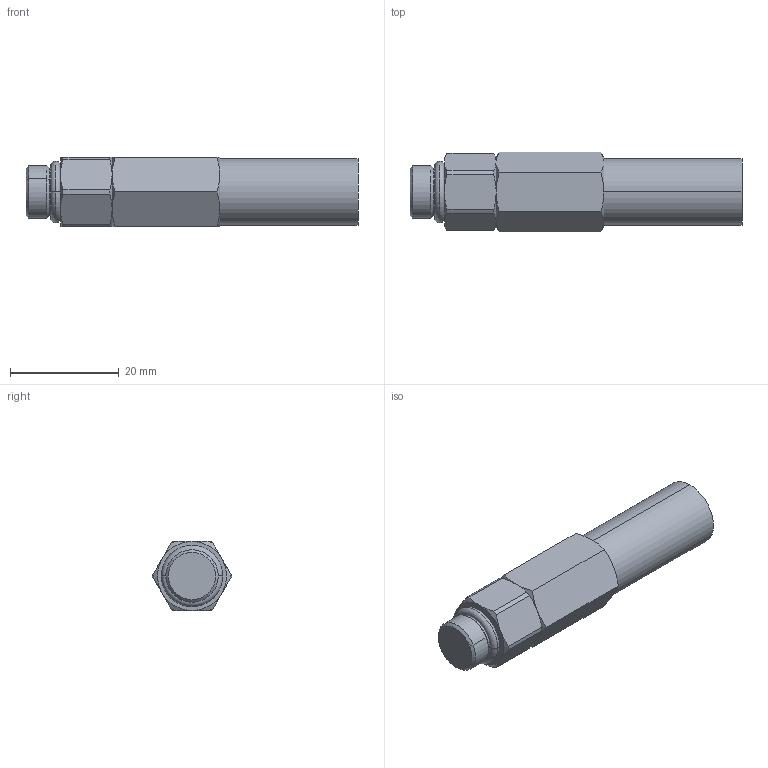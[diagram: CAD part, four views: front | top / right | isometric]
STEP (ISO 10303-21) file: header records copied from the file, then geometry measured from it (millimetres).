
FILE_DESCRIPTION((''),'2;1');
FILE_NAME('563261-EN-F_PRT','2019-12-31T21:54:57',('qusrh3'),(''),'CREO PARAMETRIC BY PTC INC, 2019030','CREO PARAMETRIC BY PTC INC, 2019030','');
FILE_SCHEMA(('CONFIG_CONTROL_DESIGN'));
Length unit declared in the file: inch
Products named in the file (1): 563261-EN-F_PRT
Bounding box: 61.09 x 14.66 x 12.7 mm (x, y, z)
Surface area: 3085.9 mm2 (no closed solid volume)
Topology: 0 solids, 5 shells, 60 faces, 134 edges, 78 vertices
Faces by surface type: cone 28, plane 16, cylinder 12, torus 4
Entity records: 1888 total; most frequent: CARTESIAN_POINT 590, DIRECTION 264, ORIENTED_EDGE 252, EDGE_CURVE 134, AXIS2_PLACEMENT_3D 118, VERTEX_POINT 78, EDGE_LOOP 60, FACE_OUTER_BOUND 60
